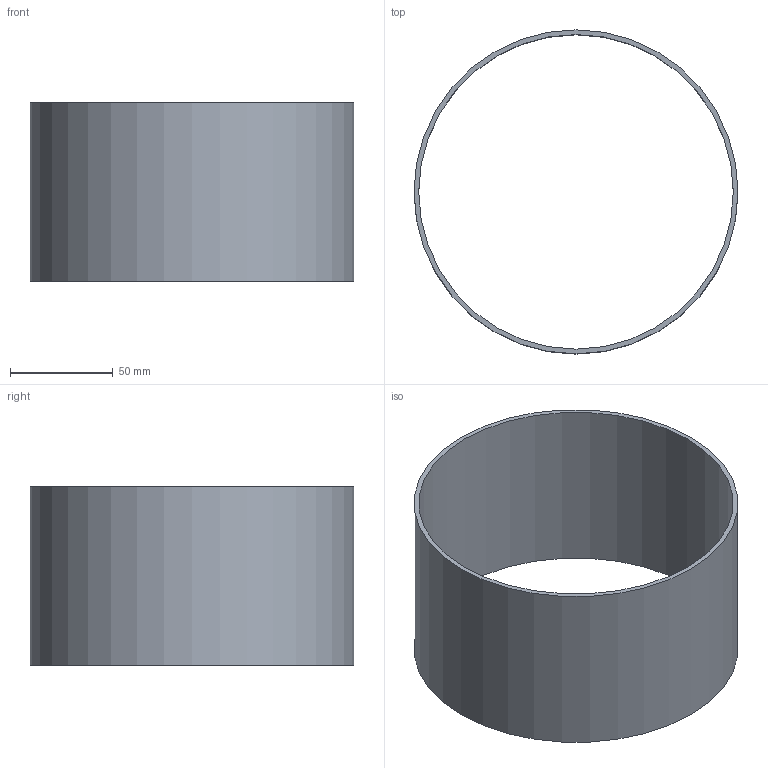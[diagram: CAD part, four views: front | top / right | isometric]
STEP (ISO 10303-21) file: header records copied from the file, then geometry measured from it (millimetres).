
FILE_DESCRIPTION(('Open CASCADE Model'),'2;1');
FILE_NAME('Open CASCADE Shape Model','2026-10-17T16:45:02',('Author'),( 'Open CASCADE'),'Open CASCADE STEP processor 8.0','build123d', 'Unknown');
FILE_SCHEMA(('AUTOMOTIVE_DESIGN { 1 0 10303 214 1 1 1 1 }'));
Length unit declared in the file: millimetre
Products named in the file (1): COMPOUND
Bounding box: 158 x 158 x 87 mm (x, y, z)
Volume: 97878.1 mm3; surface area: 87361.5 mm2
Topology: 1 solids, 1 shells, 4 faces, 6 edges, 4 vertices
Faces by surface type: cylinder 2, plane 2
Full cylindrical faces by diameter (mm): 153.4 x1, 158 x1
Entity records: 186 total; most frequent: DIRECTION 32, CARTESIAN_POINT 27, ORIENTED_EDGE 12, PCURVE 12, DEFINITIONAL_REPRESENTATION 12, LINE 10, VECTOR 10, AXIS2_PLACEMENT_3D 9
